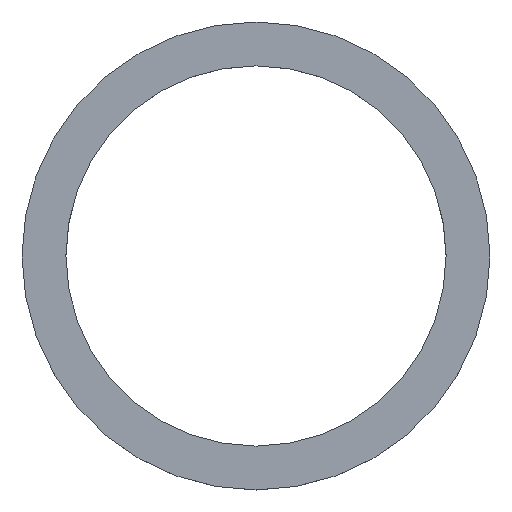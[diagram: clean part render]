
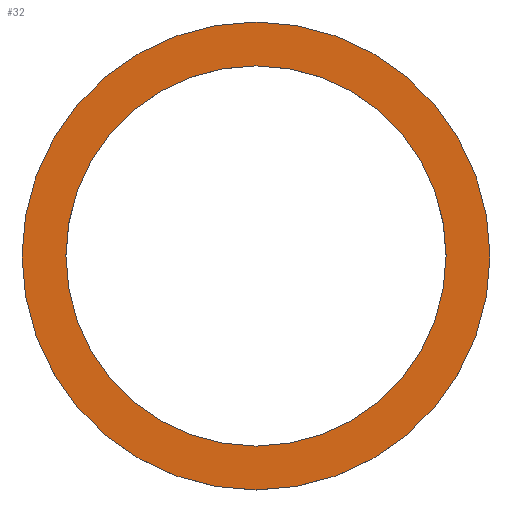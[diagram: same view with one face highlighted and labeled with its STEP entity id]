
A CAD part, top view. The second image highlights one B-rep face of the part: STEP entity #32.
In plain terms, the highlighted planar face has unit normal (0, 0, 1).
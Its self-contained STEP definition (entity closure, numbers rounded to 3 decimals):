
#32 = ADVANCED_FACE( '', ( #61, #62 ), #63, .F. );
#61 = FACE_BOUND( '', #84, .T. );
#62 = FACE_OUTER_BOUND( '', #85, .T. );
#63 = PLANE( '', #86 );
#84 = EDGE_LOOP( '', ( #105 ) );
#85 = EDGE_LOOP( '', ( #106 ) );
#86 = AXIS2_PLACEMENT_3D( '', #107, #108, #109 );
#105 = ORIENTED_EDGE( '', *, *, #117, .T. );
#106 = ORIENTED_EDGE( '', *, *, #120, .F. );
#107 = CARTESIAN_POINT( '', ( 0., 0., 2. ) );
#108 = DIRECTION( '', ( 0., 0., -1. ) );
#109 = DIRECTION( '', ( -1., 0., 0. ) );
#117 = EDGE_CURVE( '', #125, #125, #126, .T. );
#120 = EDGE_CURVE( '', #130, #130, #131, .T. );
#125 = VERTEX_POINT( '', #137 );
#126 = CIRCLE( '', #138, 19.5 );
#130 = VERTEX_POINT( '', #142 );
#131 = CIRCLE( '', #143, 24. );
#137 = CARTESIAN_POINT( '', ( 19.5, 0., 2. ) );
#138 = AXIS2_PLACEMENT_3D( '', #148, #149, #150 );
#142 = CARTESIAN_POINT( '', ( 24., 0., 2. ) );
#143 = AXIS2_PLACEMENT_3D( '', #154, #155, #156 );
#148 = CARTESIAN_POINT( '', ( 0., 0., 2. ) );
#149 = DIRECTION( '', ( 0., 0., -1. ) );
#150 = DIRECTION( '', ( 1., 0., 0. ) );
#154 = CARTESIAN_POINT( '', ( 0., 0., 2. ) );
#155 = DIRECTION( '', ( 0., 0., -1. ) );
#156 = DIRECTION( '', ( 1., 0., 0. ) );
